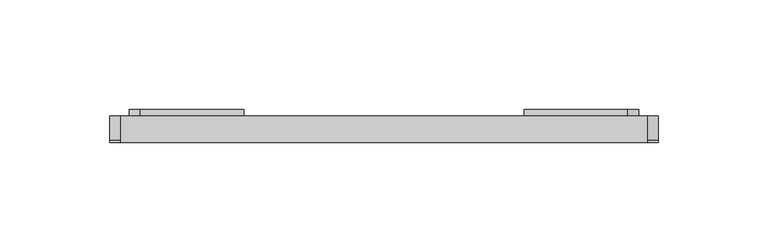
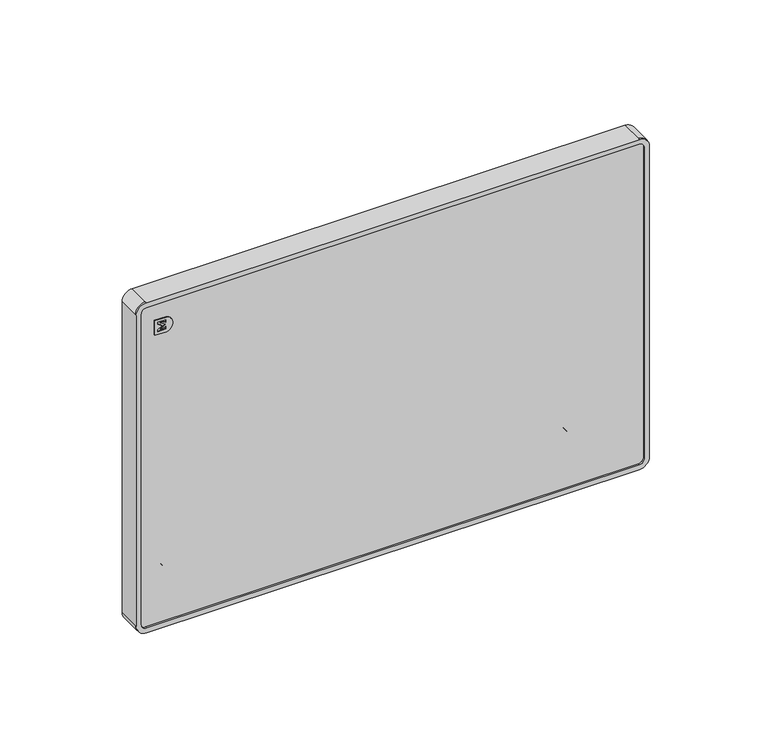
"""IFC4 building model written with IfcOpenShell, lengths in millimetres: alarm geometry, БИС-Р_тип модель : БИС-Р."""

from ifc_helpers import new_model, si_unit, point, frame, frame_2d, origin, place, context, project, spatial, polyline, circle_curve, trimmed, segment, composite_curve, outline, extrude, source, transform, mapped, element, save
from ifc_brep_helpers import plane_surface, cylinder_surface, revolved_surface, advanced_brep


def alarm_74580a2a(model_context):
    return source(origin(), model_context, "Body", "SolidModel", [
        advanced_brep(
        [(-114.2377362, -14.0, -12.3891826), (-114.2377362, -14.0, -13.3573656), (-112.1791811, -14.0, -14.7898536), (-114.2377362, -14.0, -16.2223417), (-114.2377362, -14.0, -17.1905247), (-110.4174283, -14.0, -17.1905247), (-110.3236148, -14.0, -15.7433234), (-111.6904638, -14.0, -16.4469363), (-112.9726115, -14.0, -16.4469363), (-110.609548, -14.0, -14.7898536), (-112.9726115, -14.0, -13.132771), (-111.6904638, -14.0, -13.132771), (-110.3328004, -14.0, -13.817342), (-110.4174283, -14.0, -12.3891826), (-120.0, -14.0, -2.5), (-122.5, -14.0, -5.0), (-122.5, -14.0, -165.0), (-120.0, -14.0, -167.5), (120.0, -14.0, -167.5), (122.5, -14.0, -165.0), (122.5, -14.0, -5.0), (120.0, -14.0, -2.5), (-109.9716966, -14.0, -18.673862), (-115.6052299, -14.0, -18.673862), (-115.6052299, -14.0, -11.2346729), (-109.9716966, -14.0, -11.2346729), (120.0, -3.0, -170.0), (-120.0, -3.0, -170.0), (-125.0, -3.0, -165.0), (-125.0, -3.0, -5.0), (-120.0, -3.0, 0.0), (120.0, -3.0, 0.0), (125.0, -3.0, -5.0), (125.0, -3.0, -165.0), (125.0, -14.0, -5.0), (125.0, -15.0, -5.0), (125.0, -15.0, -165.0), (125.0, -14.0, -165.0), (-120.0, -14.0, 0.0), (-120.0, -15.0, 0.0), (120.0, -15.0, 0.0), (120.0, -14.0, 0.0), (-125.0, -14.0, -165.0), (-125.0, -15.0, -165.0), (-125.0, -15.0, -5.0), (-125.0, -14.0, -5.0), (120.0, -14.0, -170.0), (120.0, -15.0, -170.0), (-120.0, -15.0, -170.0), (-120.0, -14.0, -170.0), (-115.6052299, -14.5, -18.673862), (-109.9716966, -14.5, -18.673862), (-109.9716966, -14.5, -11.2346729), (-115.6052299, -14.5, -11.2346729), (-114.2377362, -14.5, -13.3573656), (-114.2377362, -14.5, -12.3891826), (-110.4174283, -14.5, -12.3891826), (-110.3328004, -14.5, -13.817342), (-111.6904638, -14.5, -13.132771), (-112.9726115, -14.5, -13.132771), (-110.609548, -14.5, -14.7898536), (-112.9726115, -14.5, -16.4469363), (-111.6904638, -14.5, -16.4469363), (-110.3236148, -14.5, -15.7433234), (-110.4174283, -14.5, -17.1905247), (-114.2377362, -14.5, -17.1905247), (-114.2377362, -14.5, -16.2223417), (-112.1791811, -14.5, -14.7898536), (-122.5, -15.0, -5.0), (-120.0, -15.0, -2.5), (120.0, -15.0, -2.5), (122.5, -15.0, -5.0), (122.5, -15.0, -165.0), (120.0, -15.0, -167.5), (-120.0, -15.0, -167.5), (-122.5, -15.0, -165.0)],
        [
            (0, 1),
            (1, 2),
            (2, 3),
            (3, 4),
            (4, 5),
            (5, 6),
            (6, 7),
            (7, 8),
            (8, 9),
            (9, 10),
            (10, 11),
            (11, 12),
            (12, 13),
            (13, 0),
            (14, 15, circle_curve(frame((-120.0, -14.0, -5.0), z_axis=(0.0, -1.0, 0.0), x_axis=(1.0, 0.0, 0.0)), 2.5)),
            (15, 16),
            (16, 17, circle_curve(frame((-120.0, -14.0, -165.0), z_axis=(0.0, -1.0, 0.0), x_axis=(1.0, 0.0, 0.0)), 2.5)),
            (17, 18),
            (18, 19, circle_curve(frame((120.0, -14.0, -165.0), z_axis=(0.0, -1.0, 0.0), x_axis=(1.0, 0.0, 0.0)), 2.5)),
            (19, 20),
            (20, 21, circle_curve(frame((120.0, -14.0, -5.0), z_axis=(0.0, -1.0, 0.0), x_axis=(1.0, 0.0, 0.0)), 2.5)),
            (21, 14),
            (22, 23),
            (23, 24),
            (24, 25),
            (25, 22, circle_curve(frame((-110.7788563, -14.0, -14.9542675), z_axis=(0.0, 1.0, 0.0), x_axis=(0.21206641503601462, 0.0, 0.9772552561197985)), 3.8061648)),
            (26, 27),
            (27, 28, circle_curve(frame((-120.0, -3.0, -165.0), z_axis=(0.0, 1.0, 0.0), x_axis=(1.0, 0.0, 0.0)), 5.0)),
            (28, 29),
            (29, 30, circle_curve(frame((-120.0, -3.0, -5.0), z_axis=(0.0, 1.0, 0.0), x_axis=(1.0, 0.0, 0.0)), 5.0)),
            (30, 31),
            (31, 32, circle_curve(frame((120.0, -3.0, -5.0), z_axis=(0.0, 1.0, 0.0), x_axis=(1.0, 0.0, 0.0)), 5.0)),
            (32, 33),
            (33, 26, circle_curve(frame((120.0, -3.0, -165.0), z_axis=(0.0, 1.0, 0.0), x_axis=(1.0, 0.0, 0.0)), 5.0)),
            (32, 34),
            (34, 35),
            (35, 36),
            (36, 37),
            (37, 33),
            (30, 38),
            (38, 39),
            (39, 40),
            (40, 41),
            (41, 31),
            (28, 42),
            (42, 43),
            (43, 44),
            (44, 45),
            (45, 29),
            (26, 46),
            (46, 47),
            (47, 48),
            (48, 49),
            (49, 27),
            (37, 46, circle_curve(frame((120.0, -14.0, -165.0), z_axis=(0.0, 1.0, 0.0), x_axis=(1.0, 0.0, 0.0)), 5.0)),
            (41, 34, circle_curve(frame((120.0, -14.0, -5.0), z_axis=(0.0, 1.0, 0.0), x_axis=(1.0, 0.0, 0.0)), 5.0)),
            (45, 38, circle_curve(frame((-120.0, -14.0, -5.0), z_axis=(0.0, 1.0, 0.0), x_axis=(1.0, 0.0, 0.0)), 5.0)),
            (49, 42, circle_curve(frame((-120.0, -14.0, -165.0), z_axis=(0.0, 1.0, 0.0), x_axis=(1.0, 0.0, 0.0)), 5.0)),
            (50, 51),
            (51, 52, circle_curve(frame((-110.7788563, -14.5, -14.9542675), z_axis=(0.0, -1.0, 0.0), x_axis=(0.21206641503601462, 0.0, 0.9772552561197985)), 3.8061648)),
            (52, 53),
            (53, 50),
            (54, 55),
            (55, 56),
            (56, 57),
            (57, 58),
            (58, 59),
            (59, 60),
            (60, 61),
            (61, 62),
            (62, 63),
            (63, 64),
            (64, 65),
            (65, 66),
            (66, 67),
            (67, 54),
            (50, 23),
            (22, 51),
            (25, 52),
            (24, 53),
            (54, 1),
            (0, 55),
            (13, 56),
            (12, 57),
            (11, 58),
            (10, 59),
            (9, 60),
            (8, 61),
            (7, 62),
            (6, 63),
            (5, 64),
            (4, 65),
            (3, 66),
            (2, 67),
            (43, 48, circle_curve(frame((-120.0, -15.0, -165.0), z_axis=(0.0, -1.0, 0.0), x_axis=(1.0, 0.0, 0.0)), 5.0)),
            (47, 36, circle_curve(frame((120.0, -15.0, -165.0), z_axis=(0.0, -1.0, 0.0), x_axis=(1.0, 0.0, 0.0)), 5.0)),
            (35, 40, circle_curve(frame((120.0, -15.0, -5.0), z_axis=(0.0, -1.0, 0.0), x_axis=(1.0, 0.0, 0.0)), 5.0)),
            (39, 44, circle_curve(frame((-120.0, -15.0, -5.0), z_axis=(0.0, -1.0, 0.0), x_axis=(1.0, 0.0, 0.0)), 5.0)),
            (68, 69, circle_curve(frame((-120.0, -15.0, -5.0), z_axis=(0.0, 1.0, 0.0), x_axis=(1.0, 0.0, 0.0)), 2.5)),
            (69, 70),
            (70, 71, circle_curve(frame((120.0, -15.0, -5.0), z_axis=(0.0, 1.0, 0.0), x_axis=(1.0, 0.0, 0.0)), 2.5)),
            (71, 72),
            (72, 73, circle_curve(frame((120.0, -15.0, -165.0), z_axis=(0.0, 1.0, 0.0), x_axis=(1.0, 0.0, 0.0)), 2.5)),
            (73, 74),
            (74, 75, circle_curve(frame((-120.0, -15.0, -165.0), z_axis=(0.0, 1.0, 0.0), x_axis=(1.0, 0.0, 0.0)), 2.5)),
            (75, 68),
            (68, 15),
            (14, 69),
            (21, 70),
            (20, 71),
            (19, 72),
            (18, 73),
            (17, 74),
            (16, 75),
        ],
        [
            plane_surface(frame((125.0, -14.0, -165.0), z_axis=(0.0, -1.0, 0.0), x_axis=(0.0, 0.0, 1.0))),
            plane_surface(frame((125.0, -3.0, -165.0), z_axis=(0.0, 1.0, 0.0), x_axis=(0.0, 0.0, -1.0))),
            plane_surface(frame((125.0, -14.0, -165.0), z_axis=(1.0, 0.0, 0.0), x_axis=(0.0, 1.0, 0.0))),
            plane_surface(frame((120.0, -14.0, 0.0), z_axis=(0.0, 0.0, 1.0), x_axis=(0.0, 1.0, 0.0))),
            plane_surface(frame((-125.0, -14.0, -5.0), z_axis=(-1.0, 0.0, 0.0), x_axis=(0.0, 1.0, 0.0))),
            plane_surface(frame((-120.0, -14.0, -170.0), z_axis=(0.0, 0.0, -1.0), x_axis=(0.0, 1.0, 0.0))),
            cylinder_surface(frame((120.0, -3.0, -165.0), z_axis=(0.0, -1.0, 0.0), x_axis=(1.0, 0.0, 0.0)), 5.0),
            cylinder_surface(frame((120.0, -3.0, -5.0), z_axis=(0.0, -1.0, 0.0), x_axis=(1.0, 0.0, 0.0)), 5.0),
            cylinder_surface(frame((-120.0, -3.0, -5.0), z_axis=(0.0, -1.0, 0.0), x_axis=(1.0, 0.0, 0.0)), 5.0),
            cylinder_surface(frame((-120.0, -3.0, -165.0), z_axis=(0.0, -1.0, 0.0), x_axis=(1.0, 0.0, 0.0)), 5.0),
            plane_surface(frame((-108.2139711, -14.5, -18.673862), z_axis=(0.0, -1.0, 0.0), x_axis=(1.0, 0.0, 0.0))),
            plane_surface(frame((-115.6052299, -14.5, -18.673862), z_axis=(0.0, 0.0, -1.0), x_axis=(0.0, 1.0, 0.0))),
            cylinder_surface(frame((-110.7788563, -13.5, -14.9542675), z_axis=(0.0, -1.0000000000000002, 0.0), x_axis=(0.21206641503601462, 0.0, 0.9772552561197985)), 3.8061648),
            plane_surface(frame((-109.9716966, -14.5, -11.2346729), z_axis=(0.0, 0.0, 1.0), x_axis=(0.0, 1.0, 0.0))),
            plane_surface(frame((-115.6052299, -14.5, -11.2346729), z_axis=(-1.0, 0.0, 0.0), x_axis=(0.0, 1.0, 0.0))),
            plane_surface(frame((-114.2377362, -14.5, -13.3573656), z_axis=(1.0, 0.0, 0.0), x_axis=(0.0, 1.0, 0.0))),
            plane_surface(frame((-114.2377362, -14.5, -12.3891826), z_axis=(0.0, 0.0, -1.0), x_axis=(0.0, 1.0, 0.0))),
            plane_surface(frame((-110.4174283, -14.5, -12.3891826), z_axis=(-0.9982489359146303, 0.0, -0.059152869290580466), x_axis=(0.0, 1.0, 0.0))),
            plane_surface(frame((-110.3328004, -14.5, -13.817342), z_axis=(0.450230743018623, 0.0, 0.8929122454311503), x_axis=(0.0, 1.0, 0.0))),
            plane_surface(frame((-111.6904638, -14.5, -13.132771), z_axis=(0.0, 0.0, 1.0), x_axis=(0.0, 1.0, 0.0))),
            plane_surface(frame((-112.9726115, -14.5, -13.132771), z_axis=(-0.5741453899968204, 0.0, -0.818753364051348), x_axis=(0.0, 1.0, 0.0))),
            plane_surface(frame((-110.609548, -14.5, -14.7898536), z_axis=(-0.5741453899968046, 0.0, 0.818753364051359), x_axis=(0.0, 1.0, 0.0))),
            plane_surface(frame((-112.9726115, -14.5, -16.4469363), z_axis=(0.0, 0.0, -1.0), x_axis=(0.0, 1.0, 0.0))),
            plane_surface(frame((-111.6904638, -14.5, -16.4469363), z_axis=(0.4576885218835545, 0.0, -0.8891126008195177), x_axis=(0.0, 1.0, 0.0))),
            plane_surface(frame((-110.3236148, -14.5, -15.7433234), z_axis=(-0.9979055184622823, 0.0, 0.06468830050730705), x_axis=(0.0, 1.0, 0.0))),
            plane_surface(frame((-110.4174283, -14.5, -17.1905247), z_axis=(0.0, 0.0, 1.0), x_axis=(0.0, 1.0, 0.0))),
            plane_surface(frame((-114.2377362, -14.5, -17.1905247), z_axis=(1.0, 0.0, 0.0), x_axis=(0.0, 1.0, 0.0))),
            plane_surface(frame((-114.2377362, -14.5, -16.2223417), z_axis=(0.5711853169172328, 0.0, -0.8208211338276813), x_axis=(0.0, 1.0, 0.0))),
            plane_surface(frame((-112.1791811, -14.5, -14.7898536), z_axis=(0.5711853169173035, 0.0, 0.8208211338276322), x_axis=(0.0, 1.0, 0.0))),
            plane_surface(frame((-115.0, -15.0, -165.0), z_axis=(0.0, -1.0, 0.0), x_axis=(0.0, 0.0, 1.0))),
            cylinder_surface(frame((-120.0, -14.0, -165.0), z_axis=(0.0, -1.0, 0.0), x_axis=(1.0, 0.0, 0.0)), 5.0),
            cylinder_surface(frame((120.0, -14.0, -165.0), z_axis=(0.0, -1.0, 0.0), x_axis=(1.0, 0.0, 0.0)), 5.0),
            cylinder_surface(frame((120.0, -14.0, -5.0), z_axis=(0.0, -1.0, 0.0), x_axis=(1.0, 0.0, 0.0)), 5.0),
            cylinder_surface(frame((-120.0, -14.0, -5.0), z_axis=(0.0, -1.0, 0.0), x_axis=(1.0, 0.0, 0.0)), 5.0),
            revolved_surface(polyline([(-117.5, -14.0, -5.0), (-117.5, -15.0, -5.0)]), (-120.0, -14.0, -5.0), (0.0, 1.0, 0.0)),
            plane_surface(frame((-120.0, -15.0, -2.5), z_axis=(0.0, 0.0, -1.0), x_axis=(0.0, 1.0, 0.0))),
            revolved_surface(polyline([(122.5, -14.0, -5.0), (122.5, -15.0, -5.0)]), (120.0, -14.0, -5.0), (0.0, 1.0, 0.0)),
            plane_surface(frame((122.5, -15.0, -5.0), z_axis=(-1.0, 0.0, 0.0), x_axis=(0.0, 1.0, 0.0))),
            revolved_surface(polyline([(122.5, -14.0, -165.0), (122.5, -15.0, -165.0)]), (120.0, -14.0, -165.0), (0.0, 1.0, 0.0)),
            plane_surface(frame((120.0, -15.0, -167.5), z_axis=(0.0, 0.0, 1.0), x_axis=(0.0, 1.0, 0.0))),
            revolved_surface(polyline([(-117.5, -14.0, -165.0), (-117.5, -15.0, -165.0)]), (-120.0, -14.0, -165.0), (0.0, 1.0, 0.0)),
            plane_surface(frame((-122.5, -15.0, -165.0), z_axis=(1.0, 0.0, 0.0), x_axis=(0.0, 1.0, 0.0))),
        ],
        [
            (0, [[1, 2, 3, 4, 5, 6, 7, 8, 9, 10, 11, 12, 13, 14]]),
            (0, [[15, 16, 17, 18, 19, 20, 21, 22], [23, 24, 25, 26]]),
            (1, [[27, 28, 29, 30, 31, 32, 33, 34]]),
            (2, [[-33, 35, 36, 37, 38, 39]]),
            (3, [[-31, 40, 41, 42, 43, 44]]),
            (4, [[-29, 45, 46, 47, 48, 49]]),
            (5, [[-27, 50, 51, 52, 53, 54]]),
            (6, [[-34, -39, 55, -50]]),
            (7, [[-32, -44, 56, -35]]),
            (8, [[-30, -49, 57, -40]]),
            (9, [[-28, -54, 58, -45]]),
            (10, [[59, 60, 61, 62], [63, 64, 65, 66, 67, 68, 69, 70, 71, 72, 73, 74, 75, 76]]),
            (11, [[-59, 77, -23, 78]]),
            (12, [[-60, -78, -26, 79]]),
            (13, [[-61, -79, -25, 80]]),
            (14, [[-62, -80, -24, -77]]),
            (15, [[-63, 81, -1, 82]]),
            (16, [[-64, -82, -14, 83]]),
            (17, [[-65, -83, -13, 84]]),
            (18, [[-66, -84, -12, 85]]),
            (19, [[-67, -85, -11, 86]]),
            (20, [[-68, -86, -10, 87]]),
            (21, [[-69, -87, -9, 88]]),
            (22, [[-70, -88, -8, 89]]),
            (23, [[-71, -89, -7, 90]]),
            (24, [[-72, -90, -6, 91]]),
            (25, [[-73, -91, -5, 92]]),
            (26, [[-74, -92, -4, 93]]),
            (27, [[-75, -93, -3, 94]]),
            (28, [[-76, -94, -2, -81]]),
            (29, [[95, -52, 96, -37, 97, -42, 98, -47], [99, 100, 101, 102, 103, 104, 105, 106]]),
            (30, [[-95, -46, -58, -53]]),
            (31, [[-96, -51, -55, -38]]),
            (32, [[-97, -36, -56, -43]]),
            (33, [[-98, -41, -57, -48]]),
            (34, [[-99, 107, -15, 108]]),
            (35, [[-100, -108, -22, 109]]),
            (36, [[-101, -109, -21, 110]]),
            (37, [[-102, -110, -20, 111]]),
            (38, [[-103, -111, -19, 112]]),
            (39, [[-104, -112, -18, 113]]),
            (40, [[-105, -113, -17, 114]]),
            (41, [[-106, -114, -16, -107]]),
        ],
    ),
        extrude(outline(composite_curve([segment(polyline([(-11.1010205, -116.0), (-159.9564672, -116.0)]), True, "CONTINUOUS"), segment(trimmed(circle_curve(frame_2d((-159.9564672, -111.0)), 5.0), [point((-159.9564672, -116.0))], [point((-164.9564672, -111.0))], False, "CARTESIAN"), True, "CONTINUOUS"), segment(polyline([(-164.9564672, -111.0), (-164.9564672, -64.0), (-109.1010205, -64.0)]), True, "CONTINUOUS"), segment(trimmed(circle_curve(frame_2d((-109.1010205, -69.0)), 5.0), [point((-109.1010205, -64.0))], [point((-104.1010205, -69.0))], False, "CARTESIAN"), True, "CONTINUOUS"), segment(polyline([(-104.1010205, -69.0), (-104.1010205, -94.0), (-59.1010205, -94.0), (-59.1010205, -69.0)]), True, "CONTINUOUS"), segment(trimmed(circle_curve(frame_2d((-54.1010205, -69.0)), 5.0), [point((-59.1010205, -69.0))], [point((-54.1010205, -64.0))], False, "CARTESIAN"), True, "CONTINUOUS"), segment(polyline([(-54.1010205, -64.0), (-6.1010205, -64.0), (-6.1010205, -111.0)]), True, "CONTINUOUS"), segment(trimmed(circle_curve(frame_2d((-11.1010205, -111.0)), 5.0), [point((-6.1010205, -111.0))], [point((-11.1010205, -116.0))], False, "CARTESIAN"), True, "CONTINUOUS")], self_intersect=False), holes=[composite_curve([segment(polyline([(-37.9616516, -83.5), (-34.5, -83.5)]), True, "CONTINUOUS"), segment(trimmed(circle_curve(frame_2d((-34.5, -81.0)), 2.5), [point((-34.5, -83.5))], [point((-34.5, -78.5))], True, "CARTESIAN"), True, "CONTINUOUS"), segment(polyline([(-34.5, -78.5), (-37.9616516, -78.5)]), True, "CONTINUOUS"), segment(trimmed(circle_curve(frame_2d((-44.5, -81.0)), 7.0), [point((-37.9616516, -78.5))], [point((-37.9616516, -83.5))], True, "CARTESIAN"), True, "CONTINUOUS")], self_intersect=False), composite_curve([segment(trimmed(circle_curve(frame_2d((-144.9503936, -96.1267404)), 5.125), [point((-139.9503936, -95.0017404))], [point((-149.9503936, -95.0017404))], True, "CARTESIAN"), True, "CONTINUOUS"), segment(polyline([(-149.9503936, -95.0017404), (-149.9503936, -102.0017404)]), True, "CONTINUOUS"), segment(trimmed(circle_curve(frame_2d((-144.9503936, -100.8767404)), 5.125), [point((-149.9503936, -102.0017404))], [point((-139.9503936, -102.0017404))], True, "CARTESIAN"), True, "CONTINUOUS"), segment(polyline([(-139.9503936, -102.0017404), (-139.9503936, -95.0017404)]), True, "CONTINUOUS")], self_intersect=False)]), frame((0.0, -3.0, 0.0), z_axis=(0.0, 1.0, 0.0), x_axis=(0.0, 0.0, 1.0)), (0.0, 0.0, 1.0), 3.0),
        extrude(outline(composite_curve([segment(trimmed(circle_curve(frame_2d((-11.1010205, 111.0)), 5.0), [point((-11.1010205, 116.0))], [point((-6.1010205, 111.0))], False, "CARTESIAN"), True, "CONTINUOUS"), segment(polyline([(-6.1010205, 111.0), (-6.1010205, 64.0), (-54.1010205, 64.0)]), True, "CONTINUOUS"), segment(trimmed(circle_curve(frame_2d((-54.1010205, 69.0)), 5.0), [point((-54.1010205, 64.0))], [point((-59.1010205, 69.0))], False, "CARTESIAN"), True, "CONTINUOUS"), segment(polyline([(-59.1010205, 69.0), (-59.1010205, 94.0), (-104.1010205, 94.0), (-104.1010205, 69.0)]), True, "CONTINUOUS"), segment(trimmed(circle_curve(frame_2d((-109.1010205, 69.0)), 5.0), [point((-104.1010205, 69.0))], [point((-109.1010205, 64.0))], False, "CARTESIAN"), True, "CONTINUOUS"), segment(polyline([(-109.1010205, 64.0), (-164.9564672, 64.0), (-164.9564672, 111.0)]), True, "CONTINUOUS"), segment(trimmed(circle_curve(frame_2d((-159.9564672, 111.0)), 5.0), [point((-164.9564672, 111.0))], [point((-159.9564672, 116.0))], False, "CARTESIAN"), True, "CONTINUOUS"), segment(polyline([(-159.9564672, 116.0), (-11.1010205, 116.0)]), True, "CONTINUOUS")], self_intersect=False), holes=[composite_curve([segment(trimmed(circle_curve(frame_2d((-44.5, 81.0)), 7.0), [point((-37.9616516, 83.5))], [point((-37.9616516, 78.5))], True, "CARTESIAN"), True, "CONTINUOUS"), segment(polyline([(-37.9616516, 78.5), (-34.5, 78.5)]), True, "CONTINUOUS"), segment(trimmed(circle_curve(frame_2d((-34.5, 81.0)), 2.5), [point((-34.5, 78.5))], [point((-34.5, 83.5))], True, "CARTESIAN"), True, "CONTINUOUS"), segment(polyline([(-34.5, 83.5), (-37.9616516, 83.5)]), True, "CONTINUOUS")], self_intersect=False), composite_curve([segment(polyline([(-139.9503936, 95.0017404), (-139.9503936, 102.0017404)]), True, "CONTINUOUS"), segment(trimmed(circle_curve(frame_2d((-144.9503936, 100.8767404)), 5.125), [point((-139.9503936, 102.0017404))], [point((-149.9503936, 102.0017404))], True, "CARTESIAN"), True, "CONTINUOUS"), segment(polyline([(-149.9503936, 102.0017404), (-149.9503936, 95.0017404)]), True, "CONTINUOUS"), segment(trimmed(circle_curve(frame_2d((-144.9503936, 96.1267404)), 5.125), [point((-149.9503936, 95.0017404))], [point((-139.9503936, 95.0017404))], True, "CARTESIAN"), True, "CONTINUOUS")], self_intersect=False)]), frame((0.0, -3.0, 0.0), z_axis=(0.0, 1.0, 0.0), x_axis=(0.0, 0.0, 1.0)), (0.0, 0.0, 1.0), 3.0),
    ])


if __name__ == "__main__":
    model = new_model("IFC4")
    model_context = context("Model", 3, world=origin())
    ifc_project = project(units=[si_unit("LENGTHUNIT", "METRE", prefix="MILLI")], contexts=[model_context])
    site = spatial("IfcSite", under=ifc_project)
    building = spatial("IfcBuilding", under=site)
    placement = place(None, origin())
    alarm_shape = alarm_74580a2a(model_context)
    element("IfcAlarm", 1, ObjectType="БИС-Р_тип модель : БИС-Р", at=placement, inside=building, context=model_context, shape_type="MappedRepresentation", body=[
        mapped(alarm_shape, transform((0.0, 0.0, 0.0), x_axis=(1.0, 0.0, 0.0), y_axis=(0.0, 1.0, 0.0), z_axis=(0.0, 0.0, 1.0))),
    ])
    save(model, "model.ifc")
